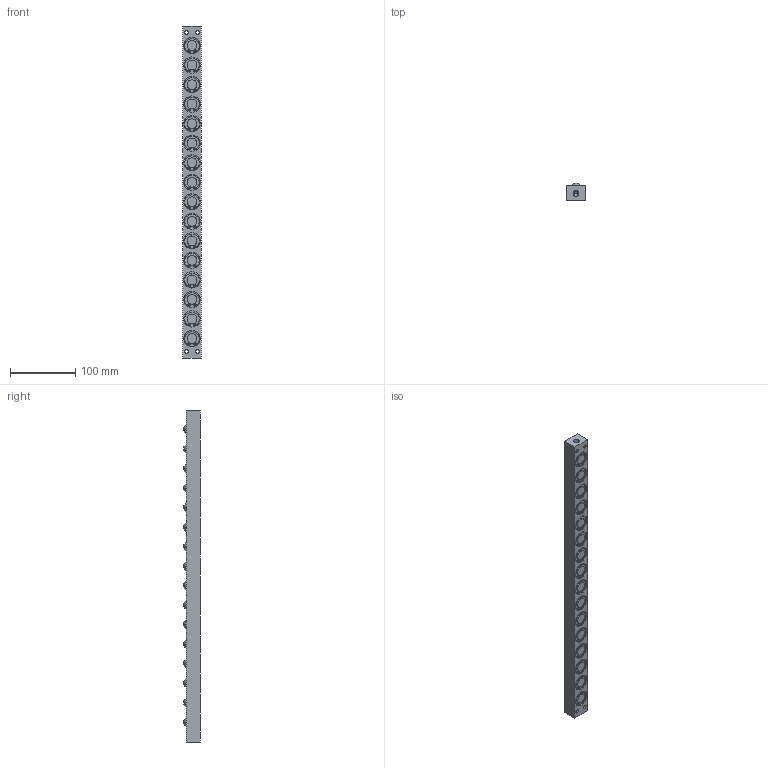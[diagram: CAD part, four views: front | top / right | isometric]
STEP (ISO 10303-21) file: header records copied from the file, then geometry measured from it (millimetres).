
FILE_DESCRIPTION (( 'STEP AP203' ), '1' );
FILE_NAME ('PVL17S-16.STEP', '2015-12-24T06:45:28', ( '' ), ( '' ), 'SwSTEP 2.0', 'SolidWorks 2013', '' );
FILE_SCHEMA (( 'CONFIG_CONTROL_DESIGN' ));
Length unit declared in the file: millimetre
Products named in the file (1): PVL17S-16
Bounding box: 28 x 26 x 510 mm (x, y, z)
Volume: 306662.8 mm3; surface area: 70611.2 mm2
Topology: 1 solids, 1 shells, 529 faces, 1244 edges, 833 vertices
Faces by surface type: cylinder 338, plane 155, sphere 32, cone 4
Entity records: 15705 total; most frequent: DIRECTION 3078, CARTESIAN_POINT 2605, ORIENTED_EDGE 2484, AXIS2_PLACEMENT_3D 1306, EDGE_CURVE 1242, VERTEX_POINT 833, CIRCLE 776, EDGE_LOOP 655
